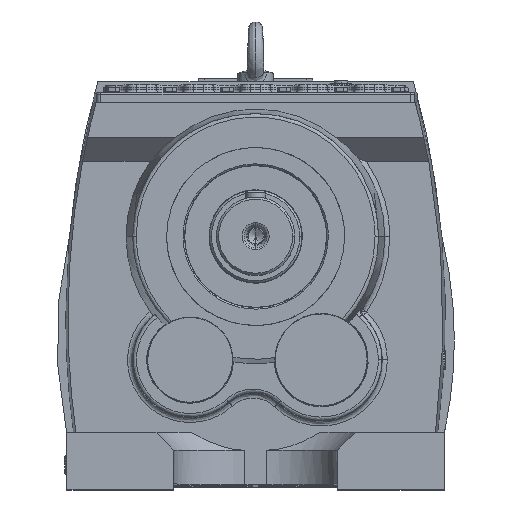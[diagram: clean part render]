
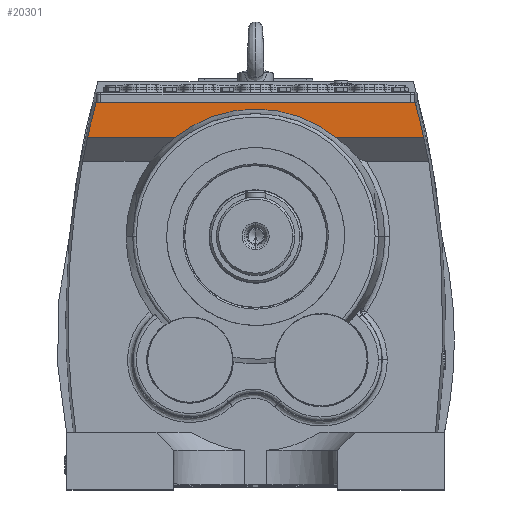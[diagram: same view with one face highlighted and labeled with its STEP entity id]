
A CAD part, top view. The second image highlights one B-rep face of the part: STEP entity #20301.
In plain terms, the highlighted planar face has unit normal (0, 0, 1).
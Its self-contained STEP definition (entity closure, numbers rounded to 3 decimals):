
#3286 = ORIENTED_EDGE ( 'NONE', *, *, #13025, .T. ) ;
#3300 = ORIENTED_EDGE ( 'NONE', *, *, #54908, .F. ) ;
#3314 = ORIENTED_EDGE ( 'NONE', *, *, #13000, .T. ) ;
#3321 = ORIENTED_EDGE ( 'NONE', *, *, #76551, .F. ) ;
#3332 = ORIENTED_EDGE ( 'NONE', *, *, #76563, .F. ) ;
#4916 = LINE ( 'NONE', #126889, #4957 ) ;
#4957 = VECTOR ( 'NONE', #126826, 1000. ) ;
#4979 = LINE ( 'NONE', #87484, #5023 ) ;
#5023 = VECTOR ( 'NONE', #87522, 1000. ) ;
#5598 = CARTESIAN_POINT ( 'NONE',  ( 113.482, 138.576, 220. ) ) ;
#5621 = CARTESIAN_POINT ( 'NONE',  ( -113.482, 138.576, 220. ) ) ;
#11036 = VERTEX_POINT ( 'NONE', #5621 ) ;
#11088 = VERTEX_POINT ( 'NONE', #5598 ) ;
#13000 = EDGE_CURVE ( 'NONE', #50731, #11036, #4916, .T. ) ;
#13025 = EDGE_CURVE ( 'NONE', #11088, #50768, #4979, .T. ) ;
#20301 = ADVANCED_FACE ( 'NONE', ( #133794 ), #131499, .T. ) ;
#50731 = VERTEX_POINT ( 'NONE', #102045 ) ;
#50768 = VERTEX_POINT ( 'NONE', #102138 ) ;
#50882 = VERTEX_POINT ( 'NONE', #102308 ) ;
#50902 = VERTEX_POINT ( 'NONE', #102451 ) ;
#54147 = AXIS2_PLACEMENT_3D ( 'NONE', #86011, #86014, #86015 ) ;
#54191 = AXIS2_PLACEMENT_3D ( 'NONE', #86008, #85987, #86002 ) ;
#54908 = EDGE_CURVE ( 'NONE', #11088, #11036, #75000, .T. ) ;
#67000 = AXIS2_PLACEMENT_3D ( 'NONE', #131522, #131508, #131515 ) ;
#68208 = AXIS2_PLACEMENT_3D ( 'NONE', #135010, #134990, #134997 ) ;
#75000 = CIRCLE ( 'NONE', #68208, 179.113 ) ;
#76551 = EDGE_CURVE ( 'NONE', #50731, #50882, #87268, .T. ) ;
#76559 = EDGE_CURVE ( 'NONE', #50902, #50882, #87309, .T. ) ;
#76563 = EDGE_CURVE ( 'NONE', #50902, #50768, #86182, .T. ) ;
#85987 = DIRECTION ( 'NONE',  ( 0., 0., -1. ) ) ;
#86002 = DIRECTION ( 'NONE',  ( -1., 0., 0. ) ) ;
#86007 = CARTESIAN_POINT ( 'NONE',  ( 250., 188., 220. ) ) ;
#86008 = CARTESIAN_POINT ( 'NONE',  ( 933.285, -113.561, 220. ) ) ;
#86011 = CARTESIAN_POINT ( 'NONE',  ( -933.285, -113.561, 220. ) ) ;
#86014 = DIRECTION ( 'NONE',  ( 0., 0., -1. ) ) ;
#86015 = DIRECTION ( 'NONE',  ( -1., 0., 0. ) ) ;
#86019 = DIRECTION ( 'NONE',  ( -1., 0., 0. ) ) ;
#86182 = CIRCLE ( 'NONE', #54147, 1196.16 ) ;
#87264 = VECTOR ( 'NONE', #86019, 1000. ) ;
#87268 = CIRCLE ( 'NONE', #54191, 1196.16 ) ;
#87309 = LINE ( 'NONE', #86007, #87264 ) ;
#87484 = CARTESIAN_POINT ( 'NONE',  ( 933.285, 138.576, 220. ) ) ;
#87522 = DIRECTION ( 'NONE',  ( 1., 0., 0. ) ) ;
#87833 = ORIENTED_EDGE ( 'NONE', *, *, #76559, .T. ) ;
#102045 = CARTESIAN_POINT ( 'NONE',  ( -235.999, 138.576, 220. ) ) ;
#102138 = CARTESIAN_POINT ( 'NONE',  ( 235.999, 138.576, 220. ) ) ;
#102308 = CARTESIAN_POINT ( 'NONE',  ( -224.238, 188., 220. ) ) ;
#102451 = CARTESIAN_POINT ( 'NONE',  ( 224.238, 188., 220. ) ) ;
#118911 = EDGE_LOOP ( 'NONE', ( #3286, #3332, #87833, #3321, #3314, #3300 ) ) ;
#126826 = DIRECTION ( 'NONE',  ( 1., 0., 0. ) ) ;
#126889 = CARTESIAN_POINT ( 'NONE',  ( 933.285, 138.576, 220. ) ) ;
#131499 = PLANE ( 'NONE',  #67000 ) ;
#131508 = DIRECTION ( 'NONE',  ( 0., 0., 1. ) ) ;
#131515 = DIRECTION ( 'NONE',  ( 1., 0., 0. ) ) ;
#131522 = CARTESIAN_POINT ( 'NONE',  ( 933.285, -113.561, 220. ) ) ;
#133794 = FACE_OUTER_BOUND ( 'NONE', #118911, .T. ) ;
#134990 = DIRECTION ( 'NONE',  ( 0., 0., 1. ) ) ;
#134997 = DIRECTION ( 'NONE',  ( -1., 0., 0. ) ) ;
#135010 = CARTESIAN_POINT ( 'NONE',  ( 0., 0., 220. ) ) ;
